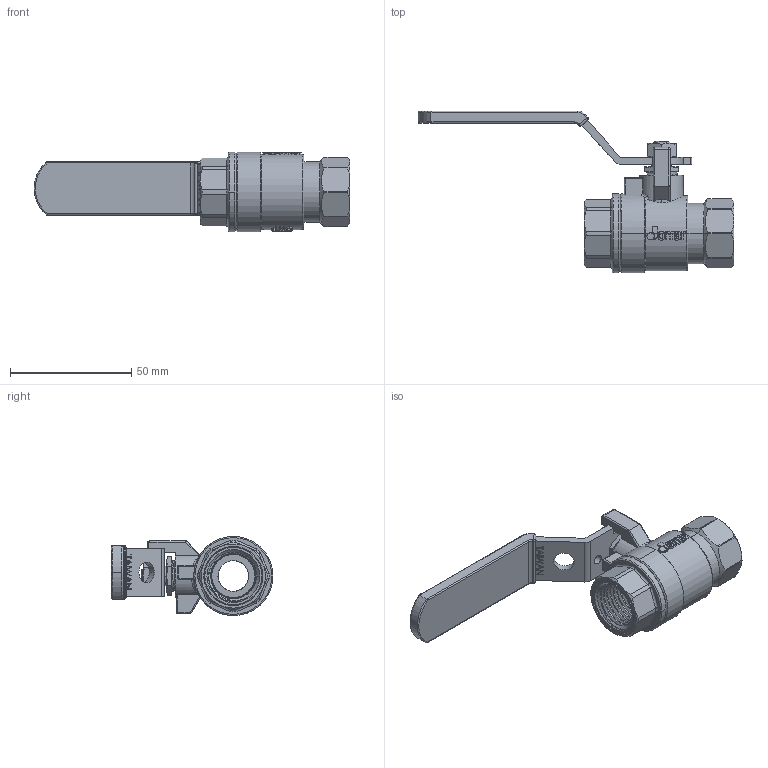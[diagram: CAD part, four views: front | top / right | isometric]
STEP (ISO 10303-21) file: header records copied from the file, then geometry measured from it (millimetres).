
FILE_DESCRIPTION (( 'STEP AP203' ), '1' );
FILE_NAME ('ABL723-µL±¾Âê-0.5''''JOMAR²y»ÖÅé²Õ¦X.STEP', '2026-04-13T01:41:58', ( '' ), ( '' ), 'SwSTEP 2.0', 'SolidWorks 2018', '' );
FILE_SCHEMA (( 'CONFIG_CONTROL_DESIGN' ));
Length unit declared in the file: millimetre
Products named in the file (13): NBL262; BBL723A-0.5''''JOMAR球閥八角頭-有鉛-端面插溝; TBL163-無鑽孔; EBL203; DN15-CBL211黃色膠套-T-200CSS; RBL263; DN15-CBL723-HANDLE & SLEEVE 組合(黃色T膠套); EBL203B; EBL203A; CBL211; ABL723-無掛鎖-0.5''''JOMAR球閥體組合; GBL211; BBL723-0.5''''JOMAR球閥體-有鉛-端面插溝無LF
Assembly tree (13 placements, depth 3):
  ABL723-無掛鎖-0.5''''JOMAR球閥體組合
    BBL723-0.5''''JOMAR球閥體-有鉛-端面插溝無LF
    EBL203A
    EBL203B
    GBL211
    RBL263
    TBL163-無鑽孔
    BBL723A-0.5''''JOMAR球閥八角頭-有鉛-端面插溝
    EBL203  x2
    NBL262
    DN15-CBL723-HANDLE & SLEEVE 組合(黃色T膠套)
      CBL211
      DN15-CBL211黃色膠套-T-200CSS
Bounding box: 130.45 x 66.86 x 32.7 mm (x, y, z)
Volume: 40302.4 mm3; surface area: 35755.8 mm2
Topology: 12 solids, 12 shells, 1520 faces, 4025 edges, 2629 vertices
Faces by surface type: plane 594, bspline 504, cylinder 251, cone 129, torus 34, sphere 8
Entity records: 95248 total; most frequent: CARTESIAN_POINT 60817, ORIENTED_EDGE 7974, DIRECTION 4975, EDGE_CURVE 3987, VERTEX_POINT 2611, LINE 1991, VECTOR 1991, EDGE_LOOP 1642
